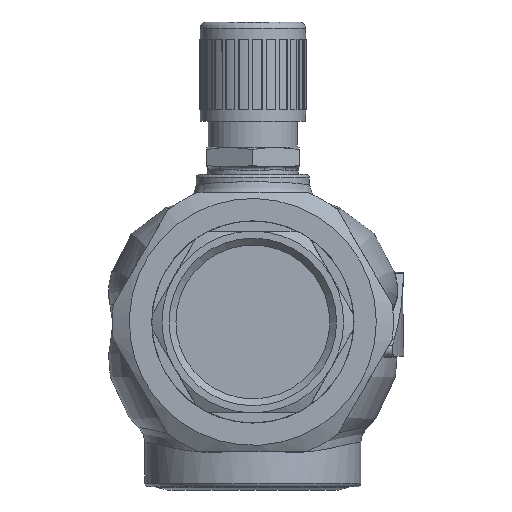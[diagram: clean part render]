
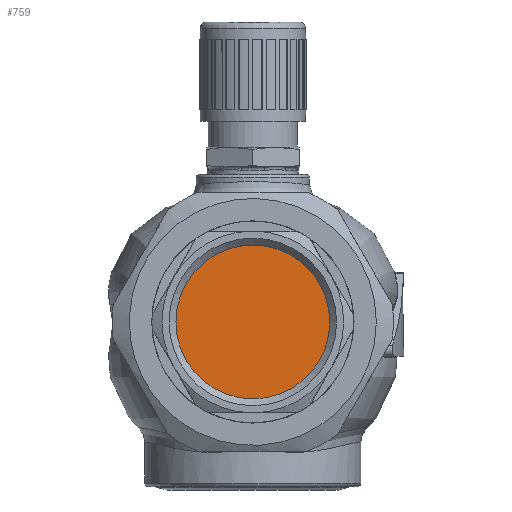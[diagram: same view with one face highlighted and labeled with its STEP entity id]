
A CAD part, left-side view. The second image highlights one B-rep face of the part: STEP entity #759.
In plain terms, the highlighted planar face has unit normal (-1, 0, 0).
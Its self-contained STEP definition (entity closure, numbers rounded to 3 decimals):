
#372=PLANE('',#5053);
#759=ADVANCED_FACE('',(#1102),#372,.T.);
#1102=FACE_OUTER_BOUND('',#1379,.T.);
#1379=EDGE_LOOP('',(#2217));
#1780=CIRCLE('',#5052,30.855);
#2217=ORIENTED_EDGE('',*,*,#3886,.T.);
#3402=VERTEX_POINT('',#11935);
#3886=EDGE_CURVE('',#3402,#3402,#1780,.T.);
#5052=AXIS2_PLACEMENT_3D('',#11934,#5740,#5741);
#5053=AXIS2_PLACEMENT_3D('',#11936,#5742,#5743);
#5740=DIRECTION('',(-1.,0.,0.));
#5741=DIRECTION('',(0.,-1.,0.));
#5742=DIRECTION('',(-1.,0.,0.));
#5743=DIRECTION('',(0.,-1.,0.));
#11934=CARTESIAN_POINT('',(30.,0.,100.));
#11935=CARTESIAN_POINT('',(30.,-30.855,100.));
#11936=CARTESIAN_POINT('',(30.,0.,100.));
